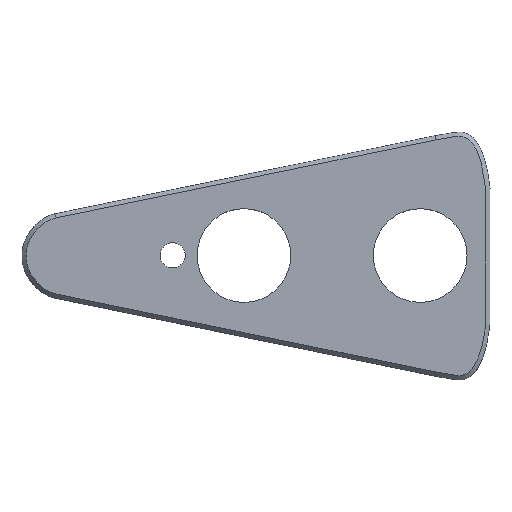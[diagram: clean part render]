
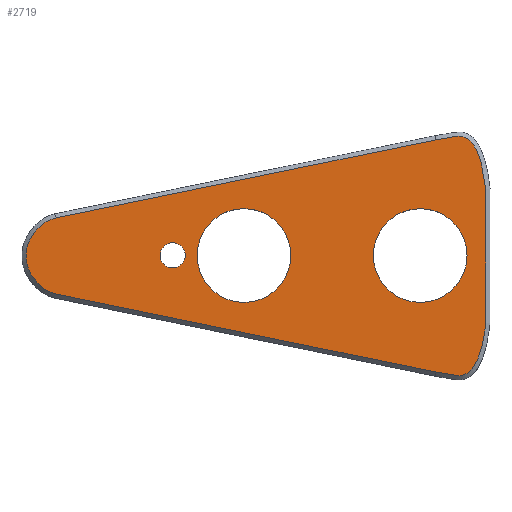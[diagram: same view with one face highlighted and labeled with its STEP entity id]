
A CAD part, top view. The second image highlights one B-rep face of the part: STEP entity #2719.
In plain terms, the highlighted planar face has unit normal (0, 0, 1).
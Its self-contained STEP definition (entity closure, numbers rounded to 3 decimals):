
#2568=CARTESIAN_POINT('',(5.012,-295.021,-38.702));
#2569=DIRECTION('',(0.,-0.,1.));
#2570=DIRECTION('',(0.,-1.,-0.));
#2571=AXIS2_PLACEMENT_3D('',#2568,#2569,#2570);
#2572=PLANE('',#2571);
#2573=CARTESIAN_POINT('',(-23.,3.,-38.702));
#2574=VERTEX_POINT('',#2573);
#2575=CARTESIAN_POINT('',(-23.,-3.,-38.702));
#2576=VERTEX_POINT('',#2575);
#2577=CARTESIAN_POINT('',(-23.,-0.,-38.702));
#2578=DIRECTION('',(0.,-0.,1.));
#2579=DIRECTION('',(0.,-1.,-0.));
#2580=AXIS2_PLACEMENT_3D('',#2577,#2578,#2579);
#2581=CIRCLE('',#2580,3.);
#2582=EDGE_CURVE('',#2574,#2576,#2581,.T.);
#2583=ORIENTED_EDGE('',*,*,#2582,.F.);
#2584=CARTESIAN_POINT('',(-23.,-0.,-38.702));
#2585=DIRECTION('',(0.,-0.,1.));
#2586=DIRECTION('',(0.,-1.,-0.));
#2587=AXIS2_PLACEMENT_3D('',#2584,#2585,#2586);
#2588=CIRCLE('',#2587,3.);
#2589=EDGE_CURVE('',#2576,#2574,#2588,.T.);
#2590=ORIENTED_EDGE('',*,*,#2589,.F.);
#2591=EDGE_LOOP('',(#2583,#2590));
#2592=FACE_BOUND('',#2591,.T.);
#2593=CARTESIAN_POINT('',(-50.893,-9.2,-38.702));
#2594=VERTEX_POINT('',#2593);
#2595=CARTESIAN_POINT('',(39.799,-27.845,-38.702));
#2596=VERTEX_POINT('',#2595);
#2597=CARTESIAN_POINT('',(-50.893,-9.2,-38.702));
#2598=DIRECTION('',(0.98,-0.201,-0.));
#2599=VECTOR('',#2598,92.557);
#2600=LINE('',#2597,#2599);
#2601=EDGE_CURVE('',#2594,#2596,#2600,.T.);
#2602=ORIENTED_EDGE('',*,*,#2601,.T.);
#2603=CARTESIAN_POINT('',(51.652,-15.997,-38.702));
#2604=VERTEX_POINT('',#2603);
#2605=CARTESIAN_POINT('',(39.81,-27.847,-38.702));
#2606=CARTESIAN_POINT('',(44.478,-28.681,-38.702));
#2607=CARTESIAN_POINT('',(45.19,-28.685,-38.702));
#2608=CARTESIAN_POINT('',(47.396,-28.698,-38.702));
#2609=CARTESIAN_POINT('',(48.898,-26.33,-38.702));
#2610=CARTESIAN_POINT('',(50.907,-23.163,-38.702));
#2611=CARTESIAN_POINT('',(51.652,-15.997,-38.702));
#2612=B_SPLINE_CURVE_WITH_KNOTS('',2,(#2605,#2606,#2607,#2608,#2609,#2610,#2611),.UNSPECIFIED.,.F.,.F.,(3,2,2,3),(0.,0.25,0.5,1.),.UNSPECIFIED.);
#2613=EDGE_CURVE('',#2596,#2604,#2612,.T.);
#2614=ORIENTED_EDGE('',*,*,#2613,.T.);
#2615=CARTESIAN_POINT('',(51.652,15.683,-38.702));
#2616=VERTEX_POINT('',#2615);
#2617=CARTESIAN_POINT('',(51.652,-15.997,-38.702));
#2618=DIRECTION('',(-0.,1.,0.));
#2619=VECTOR('',#2618,31.679);
#2620=LINE('',#2617,#2619);
#2621=EDGE_CURVE('',#2604,#2616,#2620,.T.);
#2622=ORIENTED_EDGE('',*,*,#2621,.T.);
#2623=CARTESIAN_POINT('',(39.799,27.532,-38.702));
#2624=VERTEX_POINT('',#2623);
#2625=CARTESIAN_POINT('',(51.652,15.683,-38.702));
#2626=CARTESIAN_POINT('',(50.908,22.849,-38.702));
#2627=CARTESIAN_POINT('',(48.896,26.019,-38.702));
#2628=CARTESIAN_POINT('',(47.397,28.383,-38.702));
#2629=CARTESIAN_POINT('',(45.191,28.372,-38.702));
#2630=CARTESIAN_POINT('',(44.481,28.368,-38.702));
#2631=CARTESIAN_POINT('',(39.81,27.534,-38.702));
#2632=B_SPLINE_CURVE_WITH_KNOTS('',2,(#2625,#2626,#2627,#2628,#2629,#2630,#2631),.UNSPECIFIED.,.F.,.F.,(3,2,2,3),(0.,0.5,0.75,1.),.UNSPECIFIED.);
#2633=EDGE_CURVE('',#2616,#2624,#2632,.T.);
#2634=ORIENTED_EDGE('',*,*,#2633,.T.);
#2635=CARTESIAN_POINT('',(-50.893,8.887,-38.702));
#2636=VERTEX_POINT('',#2635);
#2637=CARTESIAN_POINT('',(39.768,27.526,-38.702));
#2638=DIRECTION('',(-0.98,-0.201,-0.));
#2639=VECTOR('',#2638,92.557);
#2640=LINE('',#2637,#2639);
#2641=EDGE_CURVE('',#2624,#2636,#2640,.T.);
#2642=ORIENTED_EDGE('',*,*,#2641,.T.);
#2643=CARTESIAN_POINT('',(-57.906,0.286,-38.702));
#2644=VERTEX_POINT('',#2643);
#2645=CARTESIAN_POINT('',(-50.893,8.887,-38.702));
#2646=CARTESIAN_POINT('',(-52.204,8.617,-38.702));
#2647=CARTESIAN_POINT('',(-53.529,7.713,-38.702));
#2648=CARTESIAN_POINT('',(-54.747,6.882,-38.702));
#2649=CARTESIAN_POINT('',(-55.733,5.674,-38.702));
#2650=CARTESIAN_POINT('',(-56.717,4.466,-38.702));
#2651=CARTESIAN_POINT('',(-57.287,3.104,-38.702));
#2652=CARTESIAN_POINT('',(-57.906,1.625,-38.702));
#2653=CARTESIAN_POINT('',(-57.906,0.286,-38.702));
#2654=B_SPLINE_CURVE_WITH_KNOTS('',2,(#2645,#2646,#2647,#2648,#2649,#2650,#2651,#2652,#2653),.UNSPECIFIED.,.F.,.F.,(3,2,2,2,3),(0.,0.25,0.5,0.75,1.),.UNSPECIFIED.);
#2655=EDGE_CURVE('',#2636,#2644,#2654,.T.);
#2656=ORIENTED_EDGE('',*,*,#2655,.T.);
#2657=CARTESIAN_POINT('',(-57.906,-0.599,-38.702));
#2658=VERTEX_POINT('',#2657);
#2659=CARTESIAN_POINT('',(-57.906,0.286,-38.702));
#2660=DIRECTION('',(0.,-1.,-0.));
#2661=VECTOR('',#2660,0.885);
#2662=LINE('',#2659,#2661);
#2663=EDGE_CURVE('',#2644,#2658,#2662,.T.);
#2664=ORIENTED_EDGE('',*,*,#2663,.T.);
#2665=CARTESIAN_POINT('',(-57.906,-0.599,-38.702));
#2666=CARTESIAN_POINT('',(-57.906,-1.937,-38.702));
#2667=CARTESIAN_POINT('',(-57.287,-3.417,-38.702));
#2668=CARTESIAN_POINT('',(-56.718,-4.778,-38.702));
#2669=CARTESIAN_POINT('',(-55.733,-5.987,-38.702));
#2670=CARTESIAN_POINT('',(-54.749,-7.194,-38.702));
#2671=CARTESIAN_POINT('',(-53.529,-8.027,-38.702));
#2672=CARTESIAN_POINT('',(-52.205,-8.93,-38.702));
#2673=CARTESIAN_POINT('',(-50.893,-9.2,-38.702));
#2674=B_SPLINE_CURVE_WITH_KNOTS('',2,(#2665,#2666,#2667,#2668,#2669,#2670,#2671,#2672,#2673),.UNSPECIFIED.,.F.,.F.,(3,2,2,2,3),(0.,0.25,0.5,0.75,1.),.UNSPECIFIED.);
#2675=EDGE_CURVE('',#2658,#2594,#2674,.T.);
#2676=ORIENTED_EDGE('',*,*,#2675,.T.);
#2677=EDGE_LOOP('',(#2602,#2614,#2622,#2634,#2642,#2656,#2664,#2676));
#2678=FACE_BOUND('',#2677,.T.);
#2679=CARTESIAN_POINT('',(47.162,-0.057,-38.702));
#2680=VERTEX_POINT('',#2679);
#2681=CARTESIAN_POINT('',(24.826,-0.057,-38.702));
#2682=VERTEX_POINT('',#2681);
#2683=CARTESIAN_POINT('',(35.994,-0.057,-38.702));
#2684=DIRECTION('',(0.,-0.,1.));
#2685=DIRECTION('',(-1.,-0.,0.));
#2686=AXIS2_PLACEMENT_3D('',#2683,#2684,#2685);
#2687=CIRCLE('',#2686,11.168);
#2688=EDGE_CURVE('',#2680,#2682,#2687,.T.);
#2689=ORIENTED_EDGE('',*,*,#2688,.F.);
#2690=CARTESIAN_POINT('',(35.994,-0.057,-38.702));
#2691=DIRECTION('',(0.,-0.,1.));
#2692=DIRECTION('',(-1.,-0.,0.));
#2693=AXIS2_PLACEMENT_3D('',#2690,#2691,#2692);
#2694=CIRCLE('',#2693,11.168);
#2695=EDGE_CURVE('',#2682,#2680,#2694,.T.);
#2696=ORIENTED_EDGE('',*,*,#2695,.F.);
#2697=EDGE_LOOP('',(#2689,#2696));
#2698=FACE_BOUND('',#2697,.T.);
#2699=CARTESIAN_POINT('',(5.162,-0.057,-38.702));
#2700=VERTEX_POINT('',#2699);
#2701=CARTESIAN_POINT('',(-17.174,-0.057,-38.702));
#2702=VERTEX_POINT('',#2701);
#2703=CARTESIAN_POINT('',(-6.006,-0.057,-38.702));
#2704=DIRECTION('',(0.,-0.,1.));
#2705=DIRECTION('',(-1.,-0.,0.));
#2706=AXIS2_PLACEMENT_3D('',#2703,#2704,#2705);
#2707=CIRCLE('',#2706,11.168);
#2708=EDGE_CURVE('',#2700,#2702,#2707,.T.);
#2709=ORIENTED_EDGE('',*,*,#2708,.F.);
#2710=CARTESIAN_POINT('',(-6.006,-0.057,-38.702));
#2711=DIRECTION('',(0.,-0.,1.));
#2712=DIRECTION('',(-1.,-0.,0.));
#2713=AXIS2_PLACEMENT_3D('',#2710,#2711,#2712);
#2714=CIRCLE('',#2713,11.168);
#2715=EDGE_CURVE('',#2702,#2700,#2714,.T.);
#2716=ORIENTED_EDGE('',*,*,#2715,.F.);
#2717=EDGE_LOOP('',(#2709,#2716));
#2718=FACE_BOUND('',#2717,.T.);
#2719=ADVANCED_FACE('',(#2592,#2678,#2698,#2718),#2572,.T.);
